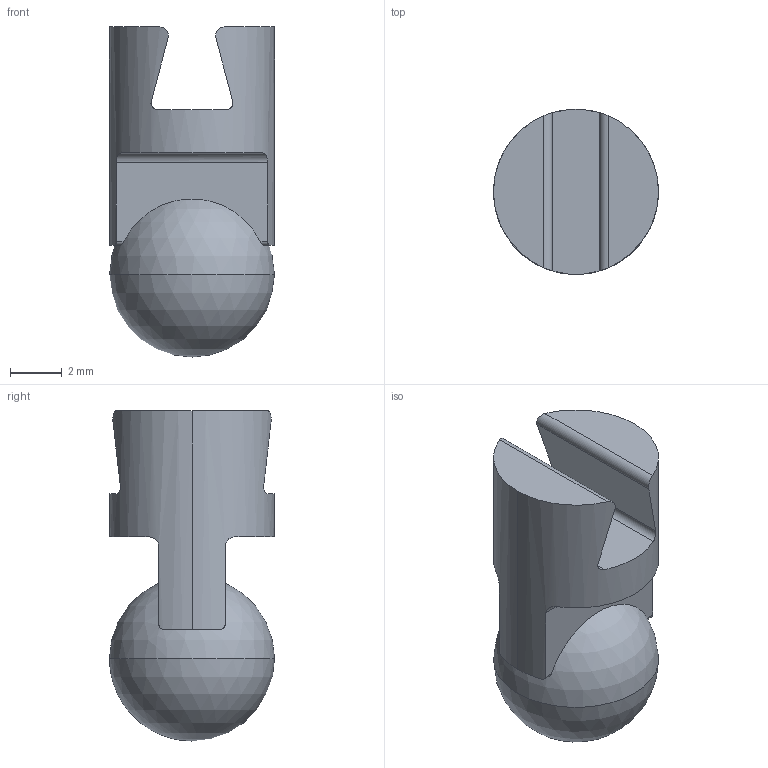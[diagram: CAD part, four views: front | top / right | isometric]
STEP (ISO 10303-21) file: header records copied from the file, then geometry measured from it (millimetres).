
FILE_DESCRIPTION (( 'STEP AP203' ), '1' );
FILE_NAME ('ALA06_6MM ADAPTOR_BALL.STEP', '2020-12-17T21:01:02', ( '' ), ( '' ), 'SwSTEP 2.0', 'SolidWorks 2020', '' );
FILE_SCHEMA (( 'CONFIG_CONTROL_DESIGN' ));
Length unit declared in the file: inch
Products named in the file (1): ALA06_6MM ADAPTOR_BALL
Bounding box: 6.35 x 6.35 x 12.7 mm (x, y, z)
Volume: 274.4 mm3; surface area: 323.9 mm2
Topology: 1 solids, 1 shells, 25 faces, 73 edges, 49 vertices
Faces by surface type: cylinder 12, plane 11, sphere 2
Entity records: 1038 total; most frequent: CARTESIAN_POINT 351, ORIENTED_EDGE 136, DIRECTION 114, EDGE_CURVE 68, VERTEX_POINT 46, AXIS2_PLACEMENT_3D 44, VECTOR 26, EDGE_LOOP 26
